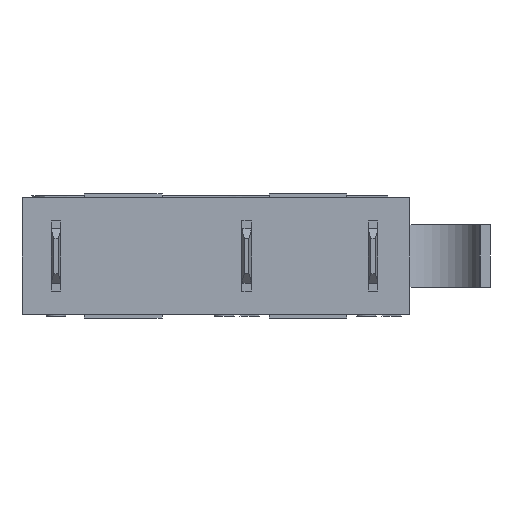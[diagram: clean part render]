
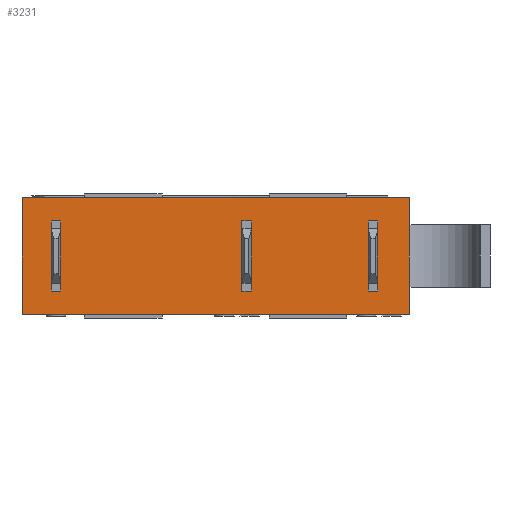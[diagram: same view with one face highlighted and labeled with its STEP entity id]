
A CAD part, front view. The second image highlights one B-rep face of the part: STEP entity #3231.
In plain terms, the highlighted planar face has unit normal (0, -1, 0).
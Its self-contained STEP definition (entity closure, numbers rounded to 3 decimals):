
#73=CARTESIAN_POINT('',(-7.95,-5.,-1.2));
#74=VERTEX_POINT('',#73);
#75=CARTESIAN_POINT('',(-7.95,-5.0,2.4));
#76=VERTEX_POINT('',#75);
#77=CARTESIAN_POINT('',(-7.95,-5.,-1.2));
#78=DIRECTION('',(0.0,0.0,1.0));
#79=VECTOR('',#78,3.6);
#80=LINE('',#77,#79);
#81=EDGE_CURVE('',#74,#76,#80,.T.);
#156=CARTESIAN_POINT('',(-8.45,-5.0,2.4));
#157=VERTEX_POINT('',#156);
#158=CARTESIAN_POINT('',(-8.45,-5.,2.4));
#159=DIRECTION('',(1.0,0.0,0.0));
#160=VECTOR('',#159,0.5);
#161=LINE('',#158,#160);
#162=EDGE_CURVE('',#157,#76,#161,.T.);
#187=CARTESIAN_POINT('',(-8.45,-5.0,-1.2));
#188=VERTEX_POINT('',#187);
#189=CARTESIAN_POINT('',(-8.45,-5.,-1.2));
#190=DIRECTION('',(1.0,0.0,0.0));
#191=VECTOR('',#190,0.5);
#192=LINE('',#189,#191);
#193=EDGE_CURVE('',#188,#74,#192,.T.);
#289=CARTESIAN_POINT('',(-8.45,-5.0,-1.2));
#290=DIRECTION('',(0.0,0.0,1.0));
#291=VECTOR('',#290,3.6);
#292=LINE('',#289,#291);
#293=EDGE_CURVE('',#188,#157,#292,.T.);
#471=CARTESIAN_POINT('',(1.85,-5.0,2.4));
#472=VERTEX_POINT('',#471);
#473=CARTESIAN_POINT('',(1.85,-5.0,-1.2));
#474=VERTEX_POINT('',#473);
#475=CARTESIAN_POINT('',(1.85,-5.0,2.4));
#476=DIRECTION('',(0.0,0.0,-1.0));
#477=VECTOR('',#476,3.6);
#478=LINE('',#475,#477);
#479=EDGE_CURVE('',#472,#474,#478,.T.);
#554=CARTESIAN_POINT('',(1.35,-5.0,2.4));
#555=VERTEX_POINT('',#554);
#556=CARTESIAN_POINT('',(1.35,-5.,2.4));
#557=DIRECTION('',(1.0,0.0,0.0));
#558=VECTOR('',#557,0.5);
#559=LINE('',#556,#558);
#560=EDGE_CURVE('',#555,#472,#559,.T.);
#585=CARTESIAN_POINT('',(1.35,-5.,-1.2));
#586=VERTEX_POINT('',#585);
#587=CARTESIAN_POINT('',(1.35,-5.,-1.2));
#588=DIRECTION('',(1.0,0.0,0.0));
#589=VECTOR('',#588,0.5);
#590=LINE('',#587,#589);
#591=EDGE_CURVE('',#586,#474,#590,.T.);
#687=CARTESIAN_POINT('',(1.35,-5.,2.4));
#688=DIRECTION('',(0.0,0.0,-1.0));
#689=VECTOR('',#688,3.6);
#690=LINE('',#687,#689);
#691=EDGE_CURVE('',#555,#586,#690,.T.);
#869=CARTESIAN_POINT('',(8.35,-5.0,2.4));
#870=VERTEX_POINT('',#869);
#871=CARTESIAN_POINT('',(8.35,-5.0,-1.2));
#872=VERTEX_POINT('',#871);
#873=CARTESIAN_POINT('',(8.35,-5.0,2.4));
#874=DIRECTION('',(0.0,0.0,-1.0));
#875=VECTOR('',#874,3.6);
#876=LINE('',#873,#875);
#877=EDGE_CURVE('',#870,#872,#876,.T.);
#952=CARTESIAN_POINT('',(7.85,-5.0,2.4));
#953=VERTEX_POINT('',#952);
#954=CARTESIAN_POINT('',(7.85,-5.,2.4));
#955=DIRECTION('',(1.0,0.0,0.0));
#956=VECTOR('',#955,0.5);
#957=LINE('',#954,#956);
#958=EDGE_CURVE('',#953,#870,#957,.T.);
#983=CARTESIAN_POINT('',(7.85,-5.,-1.2));
#984=VERTEX_POINT('',#983);
#985=CARTESIAN_POINT('',(7.85,-5.,-1.2));
#986=DIRECTION('',(1.0,0.0,0.0));
#987=VECTOR('',#986,0.5);
#988=LINE('',#985,#987);
#989=EDGE_CURVE('',#984,#872,#988,.T.);
#1085=CARTESIAN_POINT('',(7.85,-5.,2.4));
#1086=DIRECTION('',(0.0,0.0,-1.0));
#1087=VECTOR('',#1086,3.6);
#1088=LINE('',#1085,#1087);
#1089=EDGE_CURVE('',#953,#984,#1088,.T.);
#2102=CARTESIAN_POINT('',(9.95,-5.0,-2.4));
#2103=VERTEX_POINT('',#2102);
#2110=CARTESIAN_POINT('',(-9.95,-5.0,-2.4));
#2111=VERTEX_POINT('',#2110);
#2112=CARTESIAN_POINT('',(-9.95,-5.0,-2.4));
#2113=DIRECTION('',(1.0,0.0,0.0));
#2114=VECTOR('',#2113,19.9);
#2115=LINE('',#2112,#2114);
#2116=EDGE_CURVE('',#2111,#2103,#2115,.T.);
#2616=CARTESIAN_POINT('',(-9.95,-5.,3.6));
#2617=VERTEX_POINT('',#2616);
#2618=CARTESIAN_POINT('',(-9.95,-5.0,-2.4));
#2619=DIRECTION('',(0.0,0.0,1.0));
#2620=VECTOR('',#2619,6.0);
#2621=LINE('',#2618,#2620);
#2622=EDGE_CURVE('',#2111,#2617,#2621,.T.);
#3190=CARTESIAN_POINT('',(9.95,-5.0,-2.4));
#3191=DIRECTION('',(0.0,-1.0,0.0));
#3192=DIRECTION('',(0.0,0.0,-1.0));
#3193=AXIS2_PLACEMENT_3D('',#3190,#3191,#3192);
#3194=PLANE('',#3193);
#3195=CARTESIAN_POINT('',(9.95,-5.,3.6));
#3196=VERTEX_POINT('',#3195);
#3197=CARTESIAN_POINT('',(9.95,-5.,-2.4));
#3198=DIRECTION('',(0.0,0.0,1.0));
#3199=VECTOR('',#3198,6.0);
#3200=LINE('',#3197,#3199);
#3201=EDGE_CURVE('',#2103,#3196,#3200,.T.);
#3202=ORIENTED_EDGE('',*,*,#3201,.T.);
#3203=CARTESIAN_POINT('',(9.95,-5.,3.6));
#3204=DIRECTION('',(-1.0,0.0,0.0));
#3205=VECTOR('',#3204,19.9);
#3206=LINE('',#3203,#3205);
#3207=EDGE_CURVE('',#3196,#2617,#3206,.T.);
#3208=ORIENTED_EDGE('',*,*,#3207,.T.);
#3209=ORIENTED_EDGE('',*,*,#2622,.F.);
#3210=ORIENTED_EDGE('',*,*,#2116,.T.);
#3211=EDGE_LOOP('',(#3202,#3208,#3209,#3210));
#3212=FACE_OUTER_BOUND('',#3211,.T.);
#3213=ORIENTED_EDGE('',*,*,#958,.T.);
#3214=ORIENTED_EDGE('',*,*,#877,.T.);
#3215=ORIENTED_EDGE('',*,*,#989,.F.);
#3216=ORIENTED_EDGE('',*,*,#1089,.F.);
#3217=EDGE_LOOP('',(#3213,#3214,#3215,#3216));
#3218=FACE_BOUND('',#3217,.T.);
#3219=ORIENTED_EDGE('',*,*,#591,.F.);
#3220=ORIENTED_EDGE('',*,*,#691,.F.);
#3221=ORIENTED_EDGE('',*,*,#560,.T.);
#3222=ORIENTED_EDGE('',*,*,#479,.T.);
#3223=EDGE_LOOP('',(#3219,#3220,#3221,#3222));
#3224=FACE_BOUND('',#3223,.T.);
#3225=ORIENTED_EDGE('',*,*,#293,.T.);
#3226=ORIENTED_EDGE('',*,*,#162,.T.);
#3227=ORIENTED_EDGE('',*,*,#81,.F.);
#3228=ORIENTED_EDGE('',*,*,#193,.F.);
#3229=EDGE_LOOP('',(#3225,#3226,#3227,#3228));
#3230=FACE_BOUND('',#3229,.T.);
#3231=ADVANCED_FACE('',(#3212,#3218,#3224,#3230),#3194,.T.);
